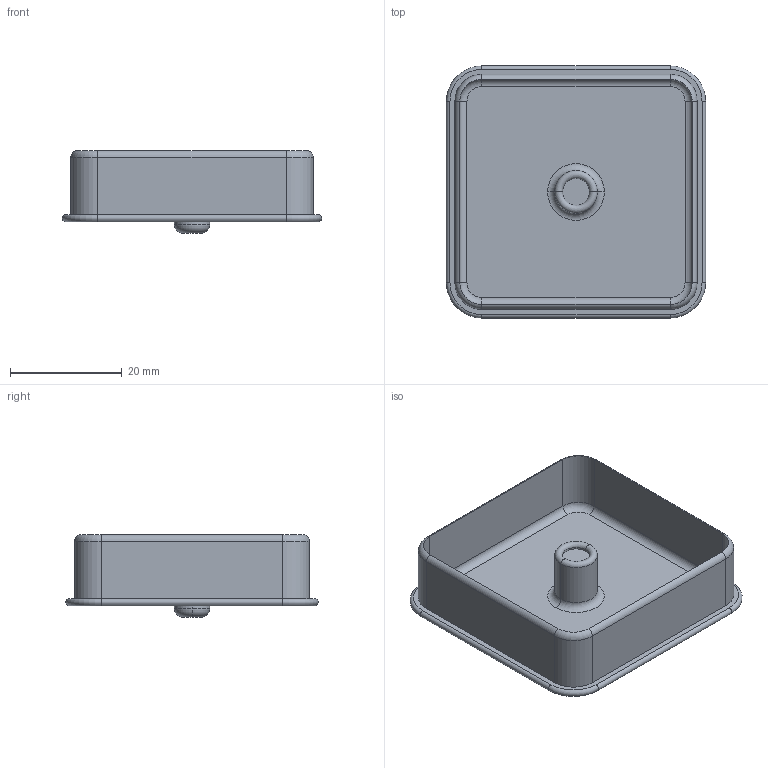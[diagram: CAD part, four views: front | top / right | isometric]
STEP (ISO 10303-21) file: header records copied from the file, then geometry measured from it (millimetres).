
FILE_DESCRIPTION((''),'2;1');
FILE_NAME('C-0515-009-4005','2013-06-28T',('workeradm'),('Tyco Electronics Ltd.'),'PRO/ENGINEER BY PARAMETRIC TECHNOLOGY CORPORATION, 2011490','PRO/ENGINEER BY PARAMETRIC TECHNOLOGY CORPORATION, 2011490','');
FILE_SCHEMA(('AUTOMOTIVE_DESIGN { 1 0 10303 214 1 1 1 1 }'));
Length unit declared in the file: millimetre
Products named in the file (1): C-0515-009-4005
Bounding box: 46.43 x 45.16 x 14.73 mm (x, y, z)
Volume: 4704.1 mm3; surface area: 7986.2 mm2
Topology: 1 solids, 1 shells, 57 faces, 124 edges, 72 vertices
Faces by surface type: cylinder 26, torus 18, plane 13
Entity records: 1888 total; most frequent: DIRECTION 312, CARTESIAN_POINT 255, ORIENTED_EDGE 248, AXIS2_PLACEMENT_3D 131, COLOUR_RGB 125, EDGE_CURVE 124, CIRCLE 74, VERTEX_POINT 72
